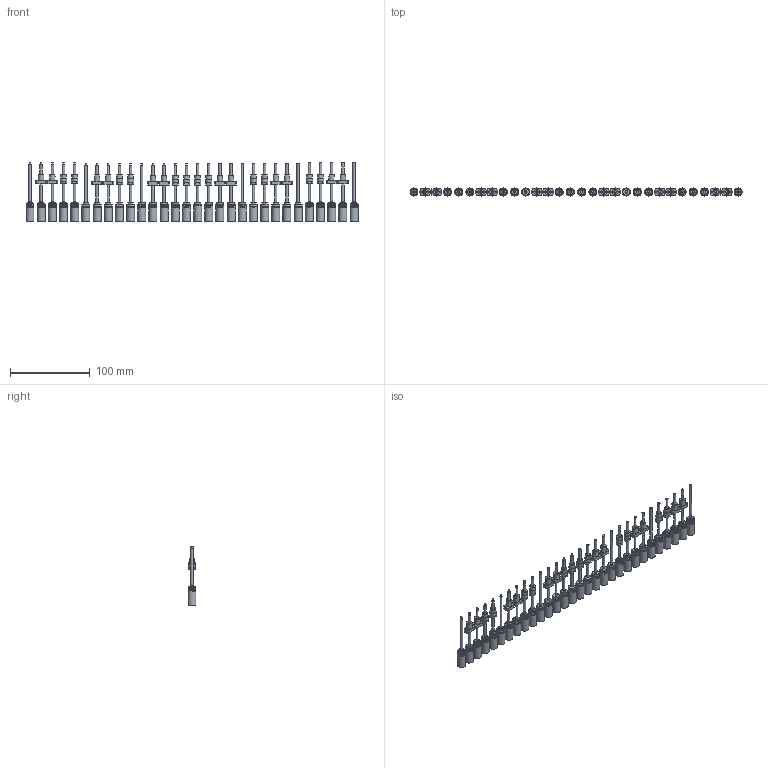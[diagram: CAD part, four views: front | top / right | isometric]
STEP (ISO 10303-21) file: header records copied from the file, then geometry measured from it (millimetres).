
FILE_DESCRIPTION(/* description */ (''),/* implementation_level */ '2;1');
FILE_NAME(/* name */ '10L-4stage_HL_standard_KWNx_KWS1_KFx.stp',/* time_stamp */ '2024-07-22T10:37:40+02:00',/* author */ ('DR. FRITZ FAULHABER GmbH & Co. KG'),/* organization */ ('DR. FRITZ FAULHABER GmbH & Co. KG'),/* preprocessor_version */ 'ST-DEVELOPER v19.3',/* originating_system */ 'SIEMENS PLM Software NX2212.4000',/* authorisation */ '');
FILE_SCHEMA (('AUTOMOTIVE_DESIGN { 1 0 10303 214 3 1 1 1 }'));
Length unit declared in the file: millimetre
Products named in the file (1): C_objects
Bounding box: 416 x 10 x 73.55 mm (x, y, z)
Volume: 73072.7 mm3; surface area: 51394.3 mm2
Topology: 30 solids, 30 shells, 3828 faces, 9390 edges, 6266 vertices
Faces by surface type: plane 2148, bspline 890, cylinder 740, cone 50
Full cylindrical faces by diameter (mm): 0.95 x40, 1.8 x24, 2 x15, 2.4 x30, 3 x54, 3.12 x30, 3.52 x30, 4.959 x30, 6 x30, 7 x44, 8 x12, 8.5 x10, 9.2 x10, 9.8 x30, 10 x70
Entity records: 161316 total; most frequent: CARTESIAN_POINT 64215, ORIENTED_EDGE 17506, DIRECTION 11813, EDGE_CURVE 8753, VERTEX_POINT 6144, EDGE_LOOP 5035, AXIS2_PLACEMENT_3D 4892, B_SPLINE_CURVE_WITH_KNOTS 4771
